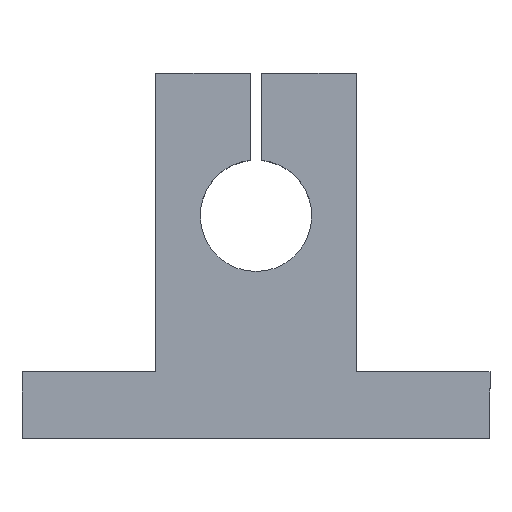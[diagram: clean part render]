
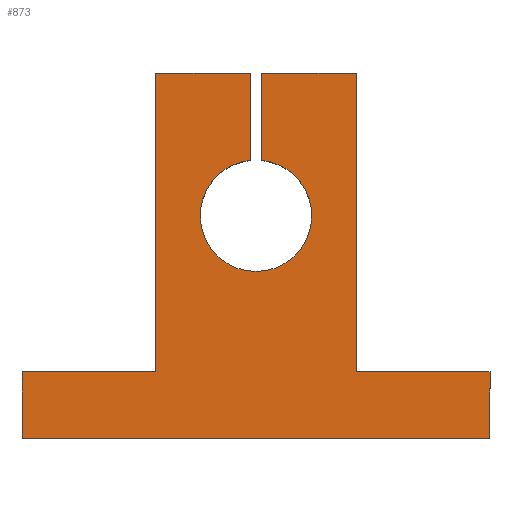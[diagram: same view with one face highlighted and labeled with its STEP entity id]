
A CAD part, top view. The second image highlights one B-rep face of the part: STEP entity #873.
In plain terms, the highlighted planar face has unit normal (0, 0, 1).
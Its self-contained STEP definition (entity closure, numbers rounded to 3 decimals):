
#51=CARTESIAN_POINT('',(26.302,17.903,14.));
#52=VERTEX_POINT('',#51);
#59=CARTESIAN_POINT('',(21.802,22.878,14.));
#60=VERTEX_POINT('',#59);
#61=CARTESIAN_POINT('',(21.302,17.903,14.));
#62=DIRECTION('',(0.0,0.0,-1.0));
#63=DIRECTION('',(-1.0,0.0,0.0));
#64=AXIS2_PLACEMENT_3D('',#61,#62,#63);
#65=CIRCLE('',#64,5.0);
#66=EDGE_CURVE('',#60,#52,#65,.T.);
#91=CARTESIAN_POINT('',(16.302,17.903,14.));
#92=VERTEX_POINT('',#91);
#101=CARTESIAN_POINT('',(21.302,17.903,14.));
#102=DIRECTION('',(0.0,0.0,-1.0));
#103=DIRECTION('',(-1.0,0.0,0.0));
#104=AXIS2_PLACEMENT_3D('',#101,#102,#103);
#105=CIRCLE('',#104,5.0);
#106=EDGE_CURVE('',#52,#92,#105,.T.);
#590=CARTESIAN_POINT('',(20.802,22.878,14.));
#591=VERTEX_POINT('',#590);
#606=CARTESIAN_POINT('',(20.802,30.703,14.));
#607=VERTEX_POINT('',#606);
#614=CARTESIAN_POINT('',(20.802,22.878,14.));
#615=DIRECTION('',(0.0,1.0,0.0));
#616=VECTOR('',#615,7.825);
#617=LINE('',#614,#616);
#618=EDGE_CURVE('',#591,#607,#617,.T.);
#633=CARTESIAN_POINT('',(21.802,30.703,14.));
#634=VERTEX_POINT('',#633);
#635=CARTESIAN_POINT('',(21.802,30.703,14.));
#636=DIRECTION('',(0.0,-1.0,0.0));
#637=VECTOR('',#636,7.825);
#638=LINE('',#635,#637);
#639=EDGE_CURVE('',#634,#60,#638,.T.);
#676=CARTESIAN_POINT('',(12.302,30.703,14.));
#677=VERTEX_POINT('',#676);
#684=CARTESIAN_POINT('',(12.302,30.703,14.));
#685=DIRECTION('',(1.0,0.0,0.0));
#686=VECTOR('',#685,8.5);
#687=LINE('',#684,#686);
#688=EDGE_CURVE('',#677,#607,#687,.T.);
#699=CARTESIAN_POINT('',(30.302,30.703,14.));
#700=VERTEX_POINT('',#699);
#701=CARTESIAN_POINT('',(21.802,30.703,14.));
#702=DIRECTION('',(1.0,0.0,0.0));
#703=VECTOR('',#702,8.5);
#704=LINE('',#701,#703);
#705=EDGE_CURVE('',#634,#700,#704,.T.);
#799=CARTESIAN_POINT('',(21.302,10.004,14.));
#800=DIRECTION('',(0.0,0.0,1.0));
#801=DIRECTION('',(1.0,0.0,0.0));
#802=AXIS2_PLACEMENT_3D('',#799,#800,#801);
#803=PLANE('',#802);
#804=ORIENTED_EDGE('',*,*,#618,.T.);
#805=ORIENTED_EDGE('',*,*,#688,.F.);
#806=CARTESIAN_POINT('',(12.302,3.903,14.));
#807=VERTEX_POINT('',#806);
#808=CARTESIAN_POINT('',(12.302,3.903,14.));
#809=DIRECTION('',(0.0,1.0,0.0));
#810=VECTOR('',#809,26.8);
#811=LINE('',#808,#810);
#812=EDGE_CURVE('',#807,#677,#811,.T.);
#813=ORIENTED_EDGE('',*,*,#812,.F.);
#814=CARTESIAN_POINT('',(0.302,3.903,14.));
#815=VERTEX_POINT('',#814);
#816=CARTESIAN_POINT('',(0.302,3.903,14.));
#817=DIRECTION('',(1.0,0.0,0.0));
#818=VECTOR('',#817,12.);
#819=LINE('',#816,#818);
#820=EDGE_CURVE('',#815,#807,#819,.T.);
#821=ORIENTED_EDGE('',*,*,#820,.F.);
#822=CARTESIAN_POINT('',(0.302,-2.097,14.));
#823=VERTEX_POINT('',#822);
#824=CARTESIAN_POINT('',(0.302,-2.097,14.));
#825=DIRECTION('',(0.0,1.0,0.0));
#826=VECTOR('',#825,6.);
#827=LINE('',#824,#826);
#828=EDGE_CURVE('',#823,#815,#827,.T.);
#829=ORIENTED_EDGE('',*,*,#828,.F.);
#830=CARTESIAN_POINT('',(42.302,-2.097,14.));
#831=VERTEX_POINT('',#830);
#832=CARTESIAN_POINT('',(42.302,-2.097,14.));
#833=DIRECTION('',(-1.0,0.0,0.0));
#834=VECTOR('',#833,42.);
#835=LINE('',#832,#834);
#836=EDGE_CURVE('',#831,#823,#835,.T.);
#837=ORIENTED_EDGE('',*,*,#836,.F.);
#838=CARTESIAN_POINT('',(42.302,3.903,14.));
#839=VERTEX_POINT('',#838);
#840=CARTESIAN_POINT('',(42.302,3.903,14.));
#841=DIRECTION('',(0.0,-1.0,0.0));
#842=VECTOR('',#841,6.);
#843=LINE('',#840,#842);
#844=EDGE_CURVE('',#839,#831,#843,.T.);
#845=ORIENTED_EDGE('',*,*,#844,.F.);
#846=CARTESIAN_POINT('',(30.302,3.903,14.));
#847=VERTEX_POINT('',#846);
#848=CARTESIAN_POINT('',(30.302,3.903,14.));
#849=DIRECTION('',(1.0,0.0,0.0));
#850=VECTOR('',#849,12.);
#851=LINE('',#848,#850);
#852=EDGE_CURVE('',#847,#839,#851,.T.);
#853=ORIENTED_EDGE('',*,*,#852,.F.);
#854=CARTESIAN_POINT('',(30.302,30.703,14.));
#855=DIRECTION('',(0.0,-1.0,0.0));
#856=VECTOR('',#855,26.8);
#857=LINE('',#854,#856);
#858=EDGE_CURVE('',#700,#847,#857,.T.);
#859=ORIENTED_EDGE('',*,*,#858,.F.);
#860=ORIENTED_EDGE('',*,*,#705,.F.);
#861=ORIENTED_EDGE('',*,*,#639,.T.);
#862=ORIENTED_EDGE('',*,*,#66,.T.);
#863=ORIENTED_EDGE('',*,*,#106,.T.);
#864=CARTESIAN_POINT('',(21.302,17.903,14.));
#865=DIRECTION('',(0.0,0.0,-1.0));
#866=DIRECTION('',(-1.0,0.0,0.0));
#867=AXIS2_PLACEMENT_3D('',#864,#865,#866);
#868=CIRCLE('',#867,5.0);
#869=EDGE_CURVE('',#92,#591,#868,.T.);
#870=ORIENTED_EDGE('',*,*,#869,.T.);
#871=EDGE_LOOP('',(#804,#805,#813,#821,#829,#837,#845,#853,#859,#860,#861,#862,#863,#870));
#872=FACE_OUTER_BOUND('',#871,.T.);
#873=ADVANCED_FACE('',(#872),#803,.T.);
